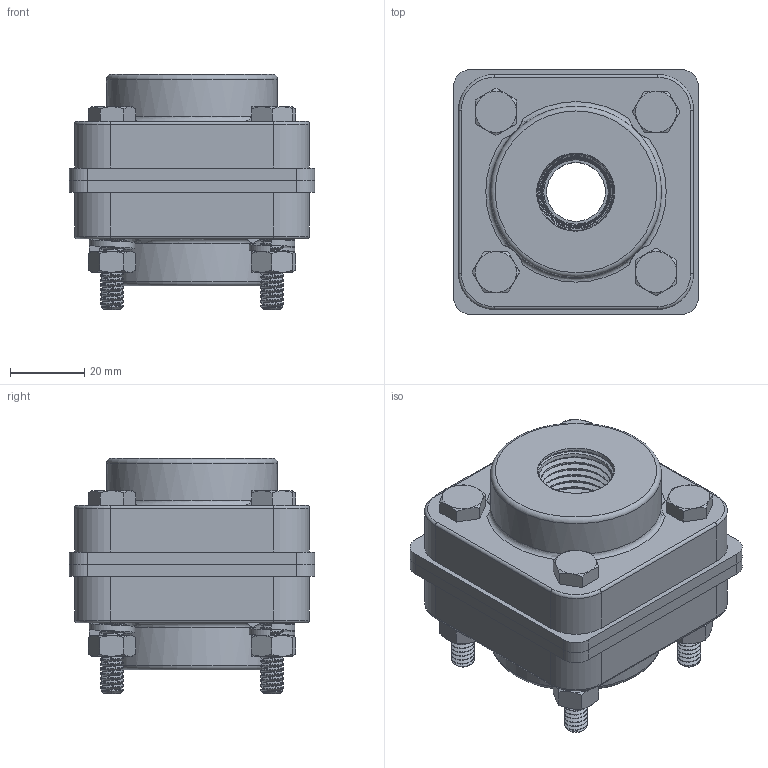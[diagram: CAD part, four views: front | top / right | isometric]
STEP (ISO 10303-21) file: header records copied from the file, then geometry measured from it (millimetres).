
FILE_DESCRIPTION(/* description */ ('Alibre Inc.'),/* implementation_level */ '2;1');
FILE_NAME(/* name */ 'export0',/* time_stamp */ '2017-09-06T17:43:01-04:00',/* author */ (''),/* organization */ (''),/* preprocessor_version */ 'ST-DEVELOPER v14',/* originating_system */ 'Alibre',/* authorisation */ '');
FILE_SCHEMA (('CONFIG_CONTROL_DESIGN'));
Products named in the file (6): ID_2; ID_1; 92198A550; 92147A029; 91845A029
Bounding box: 66.29 x 66.29 x 63.51 mm (x, y, z)
Volume: 158890.5 mm3; surface area: 57222.9 mm2
Topology: 16 solids, 16 shells, 564 faces, 1444 edges, 920 vertices
Faces by surface type: cylinder 234, cone 178, plane 104, bspline 30, torus 18
Full cylindrical faces by diameter (mm): 4.115 x8, 6.858 x8, 15.875 x2, 25.4 x2, 46.228 x2
Entity records: 24453 total; most frequent: CARTESIAN_POINT 19593, ORIENTED_EDGE 916, DIRECTION 712, EDGE_CURVE 458, AXIS2_PLACEMENT_3D 310, VERTEX_POINT 300, EDGE_LOOP 220, FACE_BOUND 220
